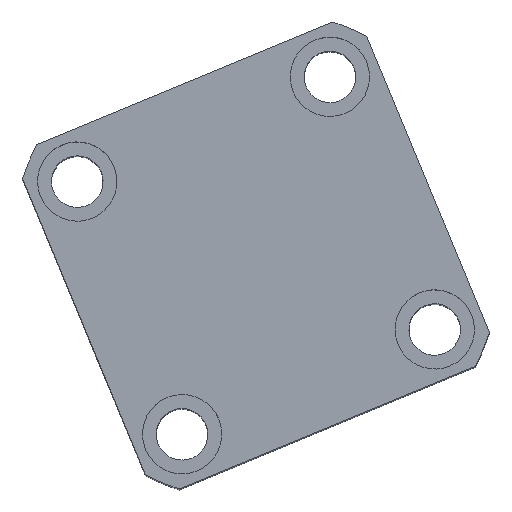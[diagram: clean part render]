
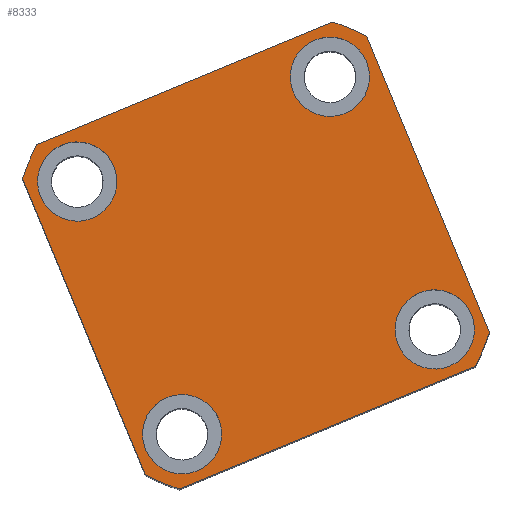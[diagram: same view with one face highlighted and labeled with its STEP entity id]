
A CAD part, top view. The second image highlights one B-rep face of the part: STEP entity #8333.
In plain terms, the highlighted planar face has unit normal (0, 0, 1) as drawn and (0, 0, -1) by its records, which use the part's own axes.
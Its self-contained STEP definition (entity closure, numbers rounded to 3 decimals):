
#35 = CARTESIAN_POINT ( 'NONE',  ( -34.5, -34.5, 0. ) ) ;
#161 = VERTEX_POINT ( 'NONE', #13845 ) ;
#438 = DIRECTION ( 'NONE',  ( 0., 0., -1. ) ) ;
#458 = CIRCLE ( 'NONE', #21274, 10. ) ;
#761 = AXIS2_PLACEMENT_3D ( 'NONE', #1049, #13118, #2772 ) ;
#773 = FACE_BOUND ( 'NONE', #13021, .T. ) ;
#1030 = CIRCLE ( 'NONE', #18945, 10. ) ;
#1049 = CARTESIAN_POINT ( 'NONE',  ( 0., 0., 0. ) ) ;
#1118 = AXIS2_PLACEMENT_3D ( 'NONE', #15221, #4880, #16930 ) ;
#1224 = CIRCLE ( 'NONE', #10387, 62. ) ;
#1530 = DIRECTION ( 'NONE',  ( 1., 0., 0. ) ) ;
#1620 = CIRCLE ( 'NONE', #14619, 10. ) ;
#1770 = DIRECTION ( 'NONE',  ( -1., 0., 0. ) ) ;
#1899 = VERTEX_POINT ( 'NONE', #17788 ) ;
#2001 = ORIENTED_EDGE ( 'NONE', *, *, #14167, .F. ) ;
#2065 = ORIENTED_EDGE ( 'NONE', *, *, #19097, .F. ) ;
#2457 = CARTESIAN_POINT ( 'NONE',  ( 24.5, -34.5, 0. ) ) ;
#2527 = EDGE_CURVE ( 'NONE', #11999, #7147, #14341, .T. ) ;
#2572 = CARTESIAN_POINT ( 'NONE',  ( -34.5, -34.5, 0. ) ) ;
#2612 = CARTESIAN_POINT ( 'NONE',  ( -34.5, 34.5, 0. ) ) ;
#2664 = ORIENTED_EDGE ( 'NONE', *, *, #9292, .F. ) ;
#2772 = DIRECTION ( 'NONE',  ( 1., 0., 0. ) ) ;
#3207 = DIRECTION ( 'NONE',  ( 0., 0., 1. ) ) ;
#3296 = VERTEX_POINT ( 'NONE', #21937 ) ;
#3324 = EDGE_LOOP ( 'NONE', ( #6702, #5147 ) ) ;
#3455 = CARTESIAN_POINT ( 'NONE',  ( 0., 0., 0. ) ) ;
#3678 = CIRCLE ( 'NONE', #761, 62. ) ;
#4163 = CARTESIAN_POINT ( 'NONE',  ( -47., 47., 0. ) ) ;
#4237 = ORIENTED_EDGE ( 'NONE', *, *, #13184, .F. ) ;
#4315 = DIRECTION ( 'NONE',  ( -1., 0., 0. ) ) ;
#4358 = DIRECTION ( 'NONE',  ( -1., 0., 0. ) ) ;
#4803 = CARTESIAN_POINT ( 'NONE',  ( -47., 40.435, 0. ) ) ;
#4826 = FACE_OUTER_BOUND ( 'NONE', #11068, .T. ) ;
#4880 = DIRECTION ( 'NONE',  ( 0., 0., -1. ) ) ;
#5032 = CIRCLE ( 'NONE', #13353, 10. ) ;
#5147 = ORIENTED_EDGE ( 'NONE', *, *, #9989, .F. ) ;
#5251 = VERTEX_POINT ( 'NONE', #21867 ) ;
#5284 = AXIS2_PLACEMENT_3D ( 'NONE', #10775, #438, #12491 ) ;
#5299 = ORIENTED_EDGE ( 'NONE', *, *, #16163, .F. ) ;
#5363 = FACE_BOUND ( 'NONE', #5710, .T. ) ;
#5569 = ORIENTED_EDGE ( 'NONE', *, *, #7654, .F. ) ;
#5710 = EDGE_LOOP ( 'NONE', ( #13982, #5299 ) ) ;
#5954 = CARTESIAN_POINT ( 'NONE',  ( 40.435, -47., 0. ) ) ;
#6067 = AXIS2_PLACEMENT_3D ( 'NONE', #17267, #6967, #19011 ) ;
#6119 = DIRECTION ( 'NONE',  ( 0., 0., -1. ) ) ;
#6241 = VERTEX_POINT ( 'NONE', #13237 ) ;
#6251 = AXIS2_PLACEMENT_3D ( 'NONE', #20467, #10122, #22202 ) ;
#6351 = CIRCLE ( 'NONE', #1118, 10. ) ;
#6379 = CARTESIAN_POINT ( 'NONE',  ( 44.5, 34.5, 0. ) ) ;
#6431 = CARTESIAN_POINT ( 'NONE',  ( -44.5, 34.5, 0. ) ) ;
#6587 = CARTESIAN_POINT ( 'NONE',  ( 34.5, -34.5, 0. ) ) ;
#6702 = ORIENTED_EDGE ( 'NONE', *, *, #19069, .F. ) ;
#6903 = VERTEX_POINT ( 'NONE', #12828 ) ;
#6914 = CARTESIAN_POINT ( 'NONE',  ( 24.5, 34.5, 0. ) ) ;
#6967 = DIRECTION ( 'NONE',  ( 0., 0., 1. ) ) ;
#7147 = VERTEX_POINT ( 'NONE', #6379 ) ;
#7589 = EDGE_CURVE ( 'NONE', #7147, #11999, #14271, .T. ) ;
#7654 = EDGE_CURVE ( 'NONE', #17781, #20473, #13764, .T. ) ;
#7711 = ORIENTED_EDGE ( 'NONE', *, *, #11298, .F. ) ;
#7842 = CARTESIAN_POINT ( 'NONE',  ( 44.5, -34.5, 0. ) ) ;
#8015 = EDGE_CURVE ( 'NONE', #9450, #5251, #20768, .T. ) ;
#8177 = DIRECTION ( 'NONE',  ( 0., 1., 0. ) ) ;
#8316 = DIRECTION ( 'NONE',  ( -1., 0., 0. ) ) ;
#8333 = ADVANCED_FACE ( 'NONE', ( #9405, #773, #5363, #14003, #4826 ), #14137, .F. ) ;
#8461 = CARTESIAN_POINT ( 'NONE',  ( 47., -40.435, 0. ) ) ;
#8727 = CARTESIAN_POINT ( 'NONE',  ( -47., -47., 0. ) ) ;
#8729 = DIRECTION ( 'NONE',  ( 1., 0., 0. ) ) ;
#9107 = DIRECTION ( 'NONE',  ( 0., -1., 0. ) ) ;
#9292 = EDGE_CURVE ( 'NONE', #6903, #1899, #1030, .T. ) ;
#9405 = FACE_BOUND ( 'NONE', #3324, .T. ) ;
#9450 = VERTEX_POINT ( 'NONE', #6431 ) ;
#9647 = CARTESIAN_POINT ( 'NONE',  ( -47., -40.435, 0. ) ) ;
#9678 = VECTOR ( 'NONE', #9107, 1000. ) ;
#9733 = ORIENTED_EDGE ( 'NONE', *, *, #2527, .F. ) ;
#9924 = VERTEX_POINT ( 'NONE', #7842 ) ;
#9989 = EDGE_CURVE ( 'NONE', #9924, #15069, #1620, .T. ) ;
#10122 = DIRECTION ( 'NONE',  ( 0., 0., -1. ) ) ;
#10171 = EDGE_CURVE ( 'NONE', #6241, #17781, #12631, .T. ) ;
#10387 = AXIS2_PLACEMENT_3D ( 'NONE', #13567, #3207, #15295 ) ;
#10775 = CARTESIAN_POINT ( 'NONE',  ( 34.5, 34.5, 0. ) ) ;
#10895 = ORIENTED_EDGE ( 'NONE', *, *, #20832, .F. ) ;
#11068 = EDGE_LOOP ( 'NONE', ( #10895, #11757, #2001, #7711, #2065, #5569, #21846, #4237 ) ) ;
#11266 = VECTOR ( 'NONE', #19718, 1000. ) ;
#11298 = EDGE_CURVE ( 'NONE', #3296, #14158, #21546, .T. ) ;
#11616 = EDGE_CURVE ( 'NONE', #20975, #161, #19365, .T. ) ;
#11757 = ORIENTED_EDGE ( 'NONE', *, *, #11616, .F. ) ;
#11847 = DIRECTION ( 'NONE',  ( 0., 0., 1. ) ) ;
#11999 = VERTEX_POINT ( 'NONE', #6914 ) ;
#12097 = DIRECTION ( 'NONE',  ( 0., 0., -1. ) ) ;
#12491 = DIRECTION ( 'NONE',  ( -1., 0., 0. ) ) ;
#12631 = CIRCLE ( 'NONE', #6067, 62. ) ;
#12828 = CARTESIAN_POINT ( 'NONE',  ( -24.5, -34.5, 0. ) ) ;
#13021 = EDGE_LOOP ( 'NONE', ( #18009, #2664 ) ) ;
#13118 = DIRECTION ( 'NONE',  ( 0., 0., 1. ) ) ;
#13184 = EDGE_CURVE ( 'NONE', #16738, #6241, #20981, .T. ) ;
#13237 = CARTESIAN_POINT ( 'NONE',  ( -40.435, 47., 0. ) ) ;
#13353 = AXIS2_PLACEMENT_3D ( 'NONE', #16455, #6119, #18183 ) ;
#13567 = CARTESIAN_POINT ( 'NONE',  ( 0., 0., 0. ) ) ;
#13613 = EDGE_CURVE ( 'NONE', #1899, #6903, #458, .T. ) ;
#13764 = LINE ( 'NONE', #21184, #9678 ) ;
#13845 = CARTESIAN_POINT ( 'NONE',  ( 47., 40.435, 0. ) ) ;
#13982 = ORIENTED_EDGE ( 'NONE', *, *, #8015, .F. ) ;
#14003 = FACE_BOUND ( 'NONE', #16576, .T. ) ;
#14137 = PLANE ( 'NONE',  #19877 ) ;
#14158 = VERTEX_POINT ( 'NONE', #5954 ) ;
#14167 = EDGE_CURVE ( 'NONE', #14158, #20975, #3678, .T. ) ;
#14271 = CIRCLE ( 'NONE', #5284, 10. ) ;
#14341 = CIRCLE ( 'NONE', #6251, 10. ) ;
#14619 = AXIS2_PLACEMENT_3D ( 'NONE', #6587, #18641, #8316 ) ;
#14672 = DIRECTION ( 'NONE',  ( 0., 0., -1. ) ) ;
#14706 = DIRECTION ( 'NONE',  ( 0., 0., -1. ) ) ;
#14801 = VECTOR ( 'NONE', #8177, 1000. ) ;
#15069 = VERTEX_POINT ( 'NONE', #2457 ) ;
#15221 = CARTESIAN_POINT ( 'NONE',  ( 34.5, -34.5, 0. ) ) ;
#15282 = CARTESIAN_POINT ( 'NONE',  ( 40.435, 47., 0. ) ) ;
#15295 = DIRECTION ( 'NONE',  ( 1., 0., 0. ) ) ;
#16163 = EDGE_CURVE ( 'NONE', #5251, #9450, #5032, .T. ) ;
#16410 = VECTOR ( 'NONE', #20742, 1000. ) ;
#16455 = CARTESIAN_POINT ( 'NONE',  ( -34.5, 34.5, 0. ) ) ;
#16576 = EDGE_LOOP ( 'NONE', ( #9733, #21311 ) ) ;
#16738 = VERTEX_POINT ( 'NONE', #15282 ) ;
#16930 = DIRECTION ( 'NONE',  ( -1., 0., 0. ) ) ;
#17267 = CARTESIAN_POINT ( 'NONE',  ( 0., 0., 0. ) ) ;
#17781 = VERTEX_POINT ( 'NONE', #4803 ) ;
#17788 = CARTESIAN_POINT ( 'NONE',  ( -44.5, -34.5, 0. ) ) ;
#18009 = ORIENTED_EDGE ( 'NONE', *, *, #13613, .F. ) ;
#18183 = DIRECTION ( 'NONE',  ( -1., 0., 0. ) ) ;
#18505 = CARTESIAN_POINT ( 'NONE',  ( 47., 47., 0. ) ) ;
#18641 = DIRECTION ( 'NONE',  ( 0., 0., -1. ) ) ;
#18945 = AXIS2_PLACEMENT_3D ( 'NONE', #2572, #14672, #4315 ) ;
#19011 = DIRECTION ( 'NONE',  ( 1., 0., 0. ) ) ;
#19022 = CIRCLE ( 'NONE', #19780, 62. ) ;
#19061 = DIRECTION ( 'NONE',  ( 0., 0., 1. ) ) ;
#19069 = EDGE_CURVE ( 'NONE', #15069, #9924, #6351, .T. ) ;
#19097 = EDGE_CURVE ( 'NONE', #20473, #3296, #1224, .T. ) ;
#19365 = LINE ( 'NONE', #18505, #14801 ) ;
#19718 = DIRECTION ( 'NONE',  ( -1., 0., 0. ) ) ;
#19780 = AXIS2_PLACEMENT_3D ( 'NONE', #22196, #11847, #1530 ) ;
#19877 = AXIS2_PLACEMENT_3D ( 'NONE', #3455, #19061, #8729 ) ;
#20467 = CARTESIAN_POINT ( 'NONE',  ( 34.5, 34.5, 0. ) ) ;
#20473 = VERTEX_POINT ( 'NONE', #9647 ) ;
#20742 = DIRECTION ( 'NONE',  ( 1., 0., 0. ) ) ;
#20768 = CIRCLE ( 'NONE', #21456, 10. ) ;
#20832 = EDGE_CURVE ( 'NONE', #161, #16738, #19022, .T. ) ;
#20975 = VERTEX_POINT ( 'NONE', #8461 ) ;
#20981 = LINE ( 'NONE', #4163, #11266 ) ;
#21184 = CARTESIAN_POINT ( 'NONE',  ( -47., 47., 0. ) ) ;
#21274 = AXIS2_PLACEMENT_3D ( 'NONE', #35, #12097, #1770 ) ;
#21311 = ORIENTED_EDGE ( 'NONE', *, *, #7589, .F. ) ;
#21456 = AXIS2_PLACEMENT_3D ( 'NONE', #2612, #14706, #4358 ) ;
#21546 = LINE ( 'NONE', #8727, #16410 ) ;
#21846 = ORIENTED_EDGE ( 'NONE', *, *, #10171, .F. ) ;
#21867 = CARTESIAN_POINT ( 'NONE',  ( -24.5, 34.5, 0. ) ) ;
#21937 = CARTESIAN_POINT ( 'NONE',  ( -40.435, -47., 0. ) ) ;
#22196 = CARTESIAN_POINT ( 'NONE',  ( 0., 0., 0. ) ) ;
#22202 = DIRECTION ( 'NONE',  ( -1., 0., 0. ) ) ;
